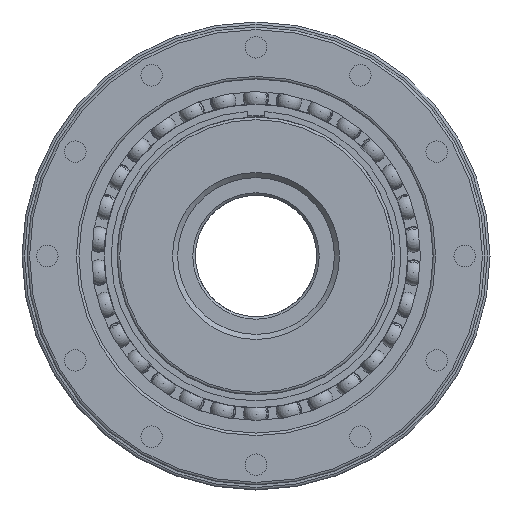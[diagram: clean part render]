
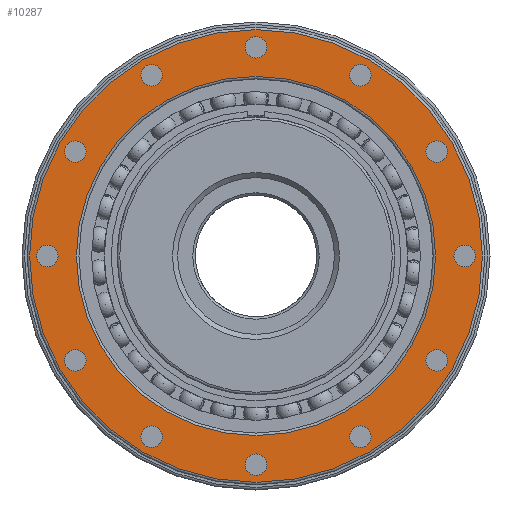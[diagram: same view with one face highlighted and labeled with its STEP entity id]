
A CAD part, left-side view. The second image highlights one B-rep face of the part: STEP entity #10287.
In plain terms, the highlighted planar face has unit normal (-1, 0, 0).
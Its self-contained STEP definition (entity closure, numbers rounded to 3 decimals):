
#154=CIRCLE('',#10503,4.25);
#180=CIRCLE('',#10549,89.5);
#195=CIRCLE('',#10577,4.25);
#270=CIRCLE('',#10714,4.25);
#359=CIRCLE('',#10842,4.25);
#371=CIRCLE('',#10864,4.25);
#386=CIRCLE('',#10893,4.25);
#395=CIRCLE('',#10915,4.25);
#471=CIRCLE('',#11044,71.);
#472=CIRCLE('',#11045,4.25);
#473=CIRCLE('',#11046,4.25);
#474=CIRCLE('',#11047,4.25);
#475=CIRCLE('',#11048,4.25);
#476=CIRCLE('',#11049,4.25);
#1162=PLANE('',#11043);
#2614=ORIENTED_EDGE('',*,*,#4414,.F.);
#2615=ORIENTED_EDGE('',*,*,#3553,.T.);
#2616=ORIENTED_EDGE('',*,*,#4234,.T.);
#2617=ORIENTED_EDGE('',*,*,#3652,.T.);
#2618=ORIENTED_EDGE('',*,*,#4114,.T.);
#2619=ORIENTED_EDGE('',*,*,#4141,.T.);
#2620=ORIENTED_EDGE('',*,*,#4415,.T.);
#2621=ORIENTED_EDGE('',*,*,#4207,.T.);
#2622=ORIENTED_EDGE('',*,*,#4416,.T.);
#2623=ORIENTED_EDGE('',*,*,#4417,.T.);
#2624=ORIENTED_EDGE('',*,*,#4418,.T.);
#2625=ORIENTED_EDGE('',*,*,#4419,.T.);
#2626=ORIENTED_EDGE('',*,*,#3879,.T.);
#2627=ORIENTED_EDGE('',*,*,#3617,.T.);
#3553=EDGE_CURVE('',#4691,#4691,#154,.T.);
#3617=EDGE_CURVE('',#4753,#4753,#180,.T.);
#3652=EDGE_CURVE('',#4785,#4785,#195,.T.);
#3879=EDGE_CURVE('',#4983,#4983,#270,.T.);
#4114=EDGE_CURVE('',#5142,#5142,#359,.T.);
#4141=EDGE_CURVE('',#5161,#5161,#371,.T.);
#4207=EDGE_CURVE('',#5212,#5212,#386,.T.);
#4234=EDGE_CURVE('',#5223,#5223,#395,.T.);
#4414=EDGE_CURVE('',#5324,#5324,#471,.T.);
#4415=EDGE_CURVE('',#5325,#5325,#472,.T.);
#4416=EDGE_CURVE('',#5326,#5326,#473,.T.);
#4417=EDGE_CURVE('',#5327,#5327,#474,.T.);
#4418=EDGE_CURVE('',#5328,#5328,#475,.T.);
#4419=EDGE_CURVE('',#5329,#5329,#476,.T.);
#4691=VERTEX_POINT('',#13903);
#4753=VERTEX_POINT('',#14615);
#4785=VERTEX_POINT('',#14866);
#4983=VERTEX_POINT('',#17817);
#5142=VERTEX_POINT('',#19560);
#5161=VERTEX_POINT('',#19850);
#5212=VERTEX_POINT('',#20078);
#5223=VERTEX_POINT('',#20328);
#5324=VERTEX_POINT('',#21724);
#5325=VERTEX_POINT('',#21726);
#5326=VERTEX_POINT('',#21728);
#5327=VERTEX_POINT('',#21730);
#5328=VERTEX_POINT('',#21732);
#5329=VERTEX_POINT('',#21734);
#6289=EDGE_LOOP('',(#2614));
#6290=EDGE_LOOP('',(#2615));
#6291=EDGE_LOOP('',(#2616));
#6292=EDGE_LOOP('',(#2617));
#6293=EDGE_LOOP('',(#2618));
#6294=EDGE_LOOP('',(#2619));
#6295=EDGE_LOOP('',(#2620));
#6296=EDGE_LOOP('',(#2621));
#6297=EDGE_LOOP('',(#2622));
#6298=EDGE_LOOP('',(#2623));
#6299=EDGE_LOOP('',(#2624));
#6300=EDGE_LOOP('',(#2625));
#6301=EDGE_LOOP('',(#2626));
#6302=EDGE_LOOP('',(#2627));
#6894=FACE_BOUND('',#6289,.T.);
#6895=FACE_BOUND('',#6290,.T.);
#6896=FACE_BOUND('',#6291,.T.);
#6897=FACE_BOUND('',#6292,.T.);
#6898=FACE_BOUND('',#6293,.T.);
#6899=FACE_BOUND('',#6294,.T.);
#6900=FACE_BOUND('',#6295,.T.);
#6901=FACE_BOUND('',#6296,.T.);
#6902=FACE_BOUND('',#6297,.T.);
#6903=FACE_BOUND('',#6298,.T.);
#6904=FACE_BOUND('',#6299,.T.);
#6905=FACE_BOUND('',#6300,.T.);
#6906=FACE_BOUND('',#6301,.T.);
#6907=FACE_BOUND('',#6302,.T.);
#10287=ADVANCED_FACE('',(#6894,#6895,#6896,#6897,#6898,#6899,#6900,#6901,
#6902,#6903,#6904,#6905,#6906,#6907),#1162,.T.);
#10503=AXIS2_PLACEMENT_3D('',#13902,#11388,#11389);
#10549=AXIS2_PLACEMENT_3D('',#14614,#11494,#11495);
#10577=AXIS2_PLACEMENT_3D('',#14865,#11565,#11566);
#10714=AXIS2_PLACEMENT_3D('',#17816,#11876,#11877);
#10842=AXIS2_PLACEMENT_3D('',#19559,#12142,#12143);
#10864=AXIS2_PLACEMENT_3D('',#19849,#12189,#12190);
#10893=AXIS2_PLACEMENT_3D('',#20077,#12289,#12290);
#10915=AXIS2_PLACEMENT_3D('',#20327,#12336,#12337);
#11043=AXIS2_PLACEMENT_3D('',#21722,#12607,#12608);
#11044=AXIS2_PLACEMENT_3D('',#21723,#12609,#12610);
#11045=AXIS2_PLACEMENT_3D('',#21725,#12611,#12612);
#11046=AXIS2_PLACEMENT_3D('',#21727,#12613,#12614);
#11047=AXIS2_PLACEMENT_3D('',#21729,#12615,#12616);
#11048=AXIS2_PLACEMENT_3D('',#21731,#12617,#12618);
#11049=AXIS2_PLACEMENT_3D('',#21733,#12619,#12620);
#11388=DIRECTION('',(1.,0.,0.));
#11389=DIRECTION('',(0.,0.,1.));
#11494=DIRECTION('',(-1.,0.,0.));
#11495=DIRECTION('',(0.,0.,1.));
#11565=DIRECTION('',(1.,0.,0.));
#11566=DIRECTION('',(0.,0.,1.));
#11876=DIRECTION('',(1.,0.,0.));
#11877=DIRECTION('',(0.,0.,1.));
#12142=DIRECTION('',(1.,0.,0.));
#12143=DIRECTION('',(0.,0.,1.));
#12189=DIRECTION('',(1.,0.,0.));
#12190=DIRECTION('',(0.,0.,1.));
#12289=DIRECTION('',(1.,0.,0.));
#12290=DIRECTION('',(0.,0.,1.));
#12336=DIRECTION('',(1.,0.,0.));
#12337=DIRECTION('',(0.,0.,1.));
#12607=DIRECTION('',(-1.,0.,0.));
#12608=DIRECTION('',(0.,0.,1.));
#12609=DIRECTION('',(-1.,0.,0.));
#12610=DIRECTION('',(0.,0.,1.));
#12611=DIRECTION('',(1.,0.,0.));
#12612=DIRECTION('',(0.,0.,1.));
#12613=DIRECTION('',(1.,0.,0.));
#12614=DIRECTION('',(0.,0.,1.));
#12615=DIRECTION('',(1.,0.,0.));
#12616=DIRECTION('',(0.,0.,1.));
#12617=DIRECTION('',(1.,0.,0.));
#12618=DIRECTION('',(0.,0.,1.));
#12619=DIRECTION('',(1.,0.,0.));
#12620=DIRECTION('',(0.,0.,1.));
#13902=CARTESIAN_POINT('',(-42.056,-71.447,-41.25));
#13903=CARTESIAN_POINT('',(-42.056,-71.447,-37.));
#14614=CARTESIAN_POINT('',(-42.056,0.,0.));
#14615=CARTESIAN_POINT('',(-42.056,0.,89.5));
#14865=CARTESIAN_POINT('',(-42.056,41.25,-71.447));
#14866=CARTESIAN_POINT('',(-42.056,41.25,-67.197));
#17816=CARTESIAN_POINT('',(-42.056,-82.5,0.));
#17817=CARTESIAN_POINT('',(-42.056,-82.5,4.25));
#19559=CARTESIAN_POINT('',(-42.056,0.,-82.5));
#19560=CARTESIAN_POINT('',(-42.056,0.,-78.25));
#19849=CARTESIAN_POINT('',(-42.056,71.447,-41.25));
#19850=CARTESIAN_POINT('',(-42.056,71.447,-37.));
#20077=CARTESIAN_POINT('',(-42.056,71.447,41.25));
#20078=CARTESIAN_POINT('',(-42.056,71.447,45.5));
#20327=CARTESIAN_POINT('',(-42.056,-41.25,-71.447));
#20328=CARTESIAN_POINT('',(-42.056,-41.25,-67.197));
#21722=CARTESIAN_POINT('',(-42.056,0.,71.));
#21723=CARTESIAN_POINT('',(-42.056,0.,0.));
#21724=CARTESIAN_POINT('',(-42.056,0.,71.));
#21725=CARTESIAN_POINT('',(-42.056,82.5,0.));
#21726=CARTESIAN_POINT('',(-42.056,82.5,4.25));
#21727=CARTESIAN_POINT('',(-42.056,41.25,71.447));
#21728=CARTESIAN_POINT('',(-42.056,41.25,75.697));
#21729=CARTESIAN_POINT('',(-42.056,0.,82.5));
#21730=CARTESIAN_POINT('',(-42.056,0.,86.75));
#21731=CARTESIAN_POINT('',(-42.056,-41.25,71.447));
#21732=CARTESIAN_POINT('',(-42.056,-41.25,75.697));
#21733=CARTESIAN_POINT('',(-42.056,-71.447,41.25));
#21734=CARTESIAN_POINT('',(-42.056,-71.447,45.5));
